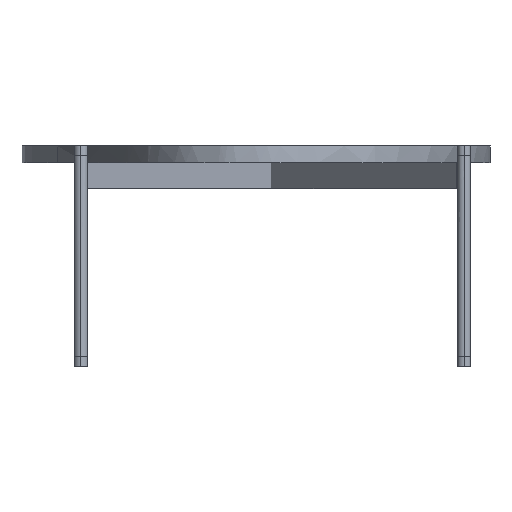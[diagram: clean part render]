
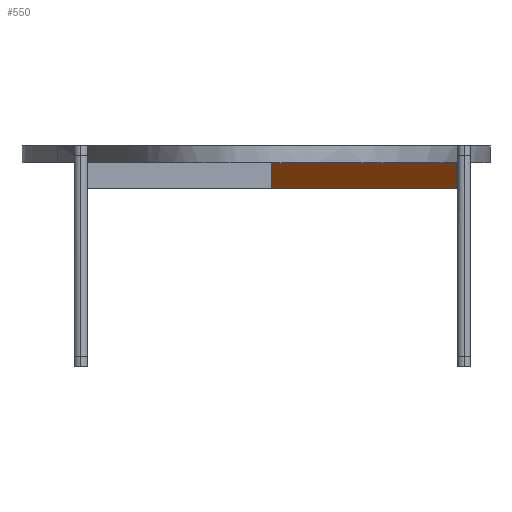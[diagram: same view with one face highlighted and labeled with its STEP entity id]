
A CAD part, left-side view. The second image highlights one B-rep face of the part: STEP entity #550.
In plain terms, the highlighted free-form (B-spline) face has degree [1, 1] with [2, 2] control points.
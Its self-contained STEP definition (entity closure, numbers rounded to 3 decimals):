
#550=ADVANCED_FACE('',(#599),#1631,.T.);
#599=FACE_OUTER_BOUND('',#648,.T.);
#648=EDGE_LOOP('',(#729,#730,#731,#732));
#729=ORIENTED_EDGE('',*,*,#1257,.T.);
#730=ORIENTED_EDGE('',*,*,#1258,.T.);
#731=ORIENTED_EDGE('',*,*,#1259,.T.);
#732=ORIENTED_EDGE('',*,*,#1260,.T.);
#870=PCURVE('',#1631,#1011);
#871=PCURVE('',#1631,#1012);
#872=PCURVE('',#1631,#1013);
#873=PCURVE('',#1631,#1014);
#1011=DEFINITIONAL_REPRESENTATION('',(#1390),#3592);
#1012=DEFINITIONAL_REPRESENTATION('',(#1392),#3592);
#1013=DEFINITIONAL_REPRESENTATION('',(#1394),#3592);
#1014=DEFINITIONAL_REPRESENTATION('',(#1396),#3592);
#1138=SURFACE_CURVE('',#1389,(#870),.PCURVE_S1.);
#1139=SURFACE_CURVE('',#1391,(#871),.PCURVE_S1.);
#1140=SURFACE_CURVE('',#1393,(#872),.PCURVE_S1.);
#1141=SURFACE_CURVE('',#1395,(#873),.PCURVE_S1.);
#1257=EDGE_CURVE('',#1546,#1547,#1138,.T.);
#1258=EDGE_CURVE('',#1547,#1548,#1139,.T.);
#1259=EDGE_CURVE('',#1548,#1549,#1140,.T.);
#1260=EDGE_CURVE('',#1549,#1546,#1141,.T.);
#1389=B_SPLINE_CURVE_WITH_KNOTS('',1,(#2870,#2871),.UNSPECIFIED.,.F.,.F.,
(2,2),(0.,326.),.UNSPECIFIED.);
#1390=B_SPLINE_CURVE_WITH_KNOTS('',1,(#2872,#2873),.UNSPECIFIED.,.F.,.F.,
(2,2),(0.,326.),.UNSPECIFIED.);
#1391=B_SPLINE_CURVE_WITH_KNOTS('',1,(#2874,#2875),.UNSPECIFIED.,.F.,.F.,
(2,2),(0.,14.),.UNSPECIFIED.);
#1392=B_SPLINE_CURVE_WITH_KNOTS('',1,(#2876,#2877),.UNSPECIFIED.,.F.,.F.,
(2,2),(0.,14.),.UNSPECIFIED.);
#1393=B_SPLINE_CURVE_WITH_KNOTS('',1,(#2878,#2879),.UNSPECIFIED.,.F.,.F.,
(2,2),(-326.,0.),.UNSPECIFIED.);
#1394=B_SPLINE_CURVE_WITH_KNOTS('',1,(#2880,#2881),.UNSPECIFIED.,.F.,.F.,
(2,2),(-326.,0.),.UNSPECIFIED.);
#1395=B_SPLINE_CURVE_WITH_KNOTS('',1,(#2882,#2883),.UNSPECIFIED.,.F.,.F.,
(2,2),(-14.,0.),.UNSPECIFIED.);
#1396=B_SPLINE_CURVE_WITH_KNOTS('',1,(#2884,#2885),.UNSPECIFIED.,.F.,.F.,
(2,2),(-14.,0.),.UNSPECIFIED.);
#1546=VERTEX_POINT('',#2866);
#1547=VERTEX_POINT('',#2867);
#1548=VERTEX_POINT('',#2868);
#1549=VERTEX_POINT('',#2869);
#1631=B_SPLINE_SURFACE_WITH_KNOTS('',1,1,((#2862,#2863),(#2864,#2865)),
 .UNSPECIFIED.,.F.,.F.,.F.,(2,2),(2,2),(0.,326.),(0.,14.),.UNSPECIFIED.);
#2862=CARTESIAN_POINT('',(422.452,284.149,283.39));
#2863=CARTESIAN_POINT('',(422.452,284.149,325.153));
#2864=CARTESIAN_POINT('',(-339.96,-319.535,283.39));
#2865=CARTESIAN_POINT('',(-339.96,-319.535,325.153));
#2866=CARTESIAN_POINT('',(422.452,284.149,283.39));
#2867=CARTESIAN_POINT('',(-339.96,-319.535,283.39));
#2868=CARTESIAN_POINT('',(-339.96,-319.535,325.153));
#2869=CARTESIAN_POINT('',(422.452,284.149,325.153));
#2870=CARTESIAN_POINT('',(422.452,284.149,283.39));
#2871=CARTESIAN_POINT('',(-339.96,-319.535,283.39));
#2872=CARTESIAN_POINT('',(0.,0.));
#2873=CARTESIAN_POINT('',(326.,0.));
#2874=CARTESIAN_POINT('',(-339.96,-319.535,283.39));
#2875=CARTESIAN_POINT('',(-339.96,-319.535,325.153));
#2876=CARTESIAN_POINT('',(326.,0.));
#2877=CARTESIAN_POINT('',(326.,14.));
#2878=CARTESIAN_POINT('',(-339.96,-319.535,325.153));
#2879=CARTESIAN_POINT('',(422.452,284.149,325.153));
#2880=CARTESIAN_POINT('',(326.,14.));
#2881=CARTESIAN_POINT('',(0.,14.));
#2882=CARTESIAN_POINT('',(422.452,284.149,325.153));
#2883=CARTESIAN_POINT('',(422.452,284.149,283.39));
#2884=CARTESIAN_POINT('',(0.,14.));
#2885=CARTESIAN_POINT('',(0.,0.));
#3592=(
GEOMETRIC_REPRESENTATION_CONTEXT(2)
PARAMETRIC_REPRESENTATION_CONTEXT()
REPRESENTATION_CONTEXT('pspace','')
);
